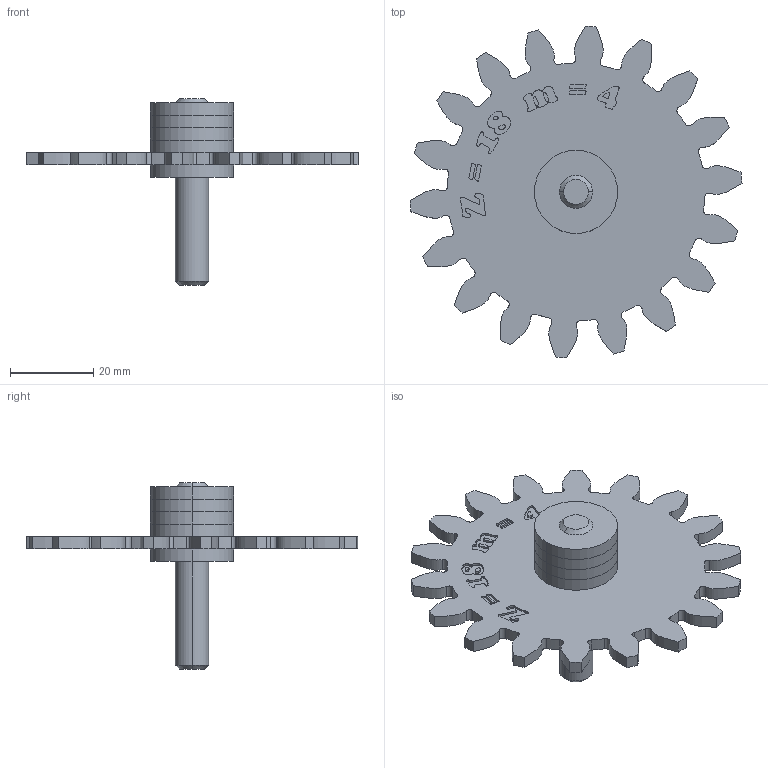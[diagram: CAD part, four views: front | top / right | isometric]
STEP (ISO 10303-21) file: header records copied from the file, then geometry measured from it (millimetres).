
FILE_DESCRIPTION (( 'STEP AP203' ), '1' );
FILE_NAME ('Engrenage m4 Z18 avec axe.STEP', '2025-09-18T11:48:47', ( '' ), ( '' ), 'SwSTEP 2.0', 'SolidWorks 2019', '' );
FILE_SCHEMA (( 'CONFIG_CONTROL_DESIGN' ));
Length unit declared in the file: millimetre
Products named in the file (4): Axe pignon L45; Support pignon bouton; Engrenage m4 Z18 avec axe; Pignon denture droite m=4 Z=18
Assembly tree (7 placements, depth 2):
  Engrenage m4 Z18 avec axe
    Axe pignon L45
    Support pignon bouton  x5
    Pignon denture droite m=4 Z=18
Bounding box: 79.9 x 79.87 x 45 mm (x, y, z)
Volume: 17821.1 mm3; surface area: 14513.7 mm2
Topology: 7 solids, 7 shells, 392 faces, 1094 edges, 728 vertices
Faces by surface type: bspline 229, cylinder 106, plane 53, cone 4
Entity records: 18130 total; most frequent: CARTESIAN_POINT 9421, ORIENTED_EDGE 2092, DIRECTION 1070, EDGE_CURVE 1046, VERTEX_POINT 696, B_SPLINE_CURVE_WITH_KNOTS 458, VECTOR 404, LINE 404
